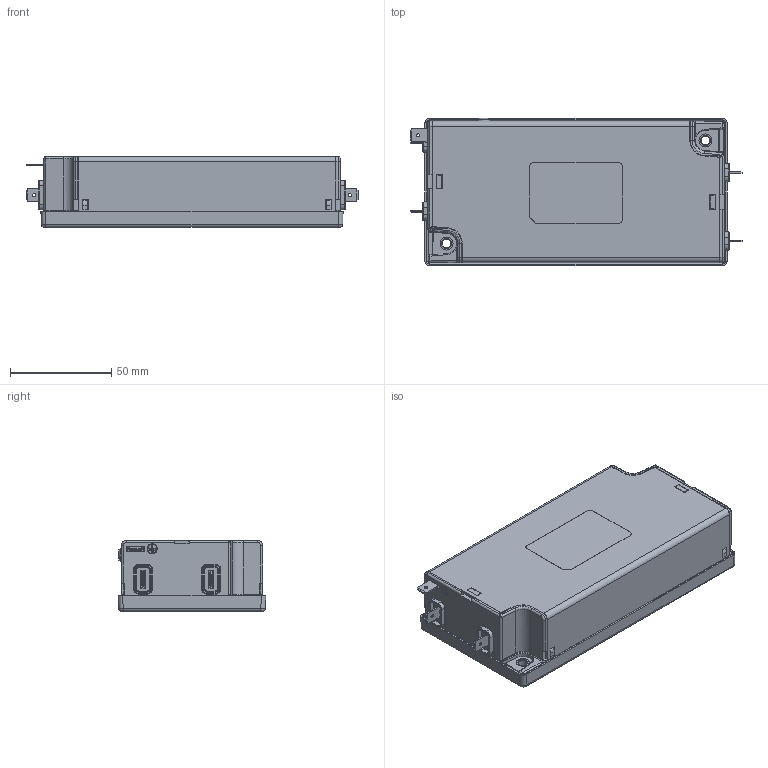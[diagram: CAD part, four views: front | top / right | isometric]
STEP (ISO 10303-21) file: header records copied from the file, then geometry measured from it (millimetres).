
FILE_DESCRIPTION(/* description */ (''),/* implementation_level */ '2;1');
FILE_NAME(/* name */ 'C:\Users\Christian.Ackermann\OneDrive - Schaffner EMV AG\Desktop\UMA_customerSTEP\FN252x-xx-05.stp',/* time_stamp */ '2021-11-30T09:55:03+01:00',/* author */ ('Christian.Ackermann'),/* organization */ (''),/* preprocessor_version */ 'ST-DEVELOPER v18.1',/* originating_system */ 'Autodesk Inventor 2020',/* authorisation */ '');
FILE_SCHEMA (('AUTOMOTIVE_DESIGN { 1 0 10303 214 3 1 1 }'));
Length unit declared in the file: millimetre
Products named in the file (1): FN252x-xx-05-Cxxxx
Bounding box: 164.2 x 73 x 35.07 mm (x, y, z)
Volume: 347163.6 mm3; surface area: 54840.9 mm2
Topology: 1 solids, 1 shells, 1464 faces, 3736 edges, 2307 vertices
Faces by surface type: plane 703, cylinder 449, bspline 111, torus 105, cone 68, sphere 28
Full cylindrical faces by diameter (mm): 1.65 x5, 2 x1, 4.2 x2, 6.4 x2, 6.5 x1, 8.39 x4, 8.74 x6
Entity records: 48952 total; most frequent: CARTESIAN_POINT 11587, DIRECTION 7570, ORIENTED_EDGE 7468, EDGE_CURVE 3734, AXIS2_PLACEMENT_3D 2627, LINE 2316, VECTOR 2316, VERTEX_POINT 2307
